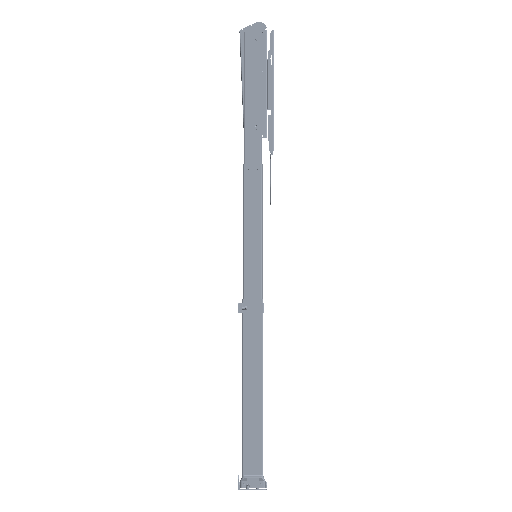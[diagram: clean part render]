
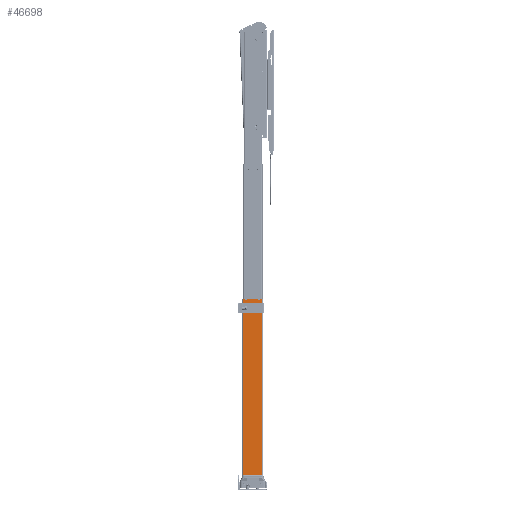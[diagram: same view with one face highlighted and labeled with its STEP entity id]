
A CAD part, left-side view. The second image highlights one B-rep face of the part: STEP entity #46698.
In plain terms, the highlighted planar face has unit normal (-1, 0, 0) as drawn and (0, -1, 0) by its records, which use the part's own axes.
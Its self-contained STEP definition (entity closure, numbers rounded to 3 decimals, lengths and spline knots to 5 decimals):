
#173=ELLIPSE('',#53364,0.02082,0.008);
#178=ELLIPSE('',#53371,0.02082,0.008);
#4111=CIRCLE('',#53550,0.0005);
#4112=CIRCLE('',#53553,0.0005);
#4113=CIRCLE('',#53558,0.0005);
#4114=CIRCLE('',#53561,0.0005);
#13898=ORIENTED_EDGE('',*,*,#21925,.T.);
#13899=ORIENTED_EDGE('',*,*,#21922,.T.);
#13900=ORIENTED_EDGE('',*,*,#21918,.T.);
#13901=ORIENTED_EDGE('',*,*,#22350,.F.);
#13902=ORIENTED_EDGE('',*,*,#22291,.T.);
#13903=ORIENTED_EDGE('',*,*,#22289,.T.);
#13904=ORIENTED_EDGE('',*,*,#22287,.F.);
#13905=ORIENTED_EDGE('',*,*,#22285,.T.);
#13906=ORIENTED_EDGE('',*,*,#22283,.F.);
#13907=ORIENTED_EDGE('',*,*,#22281,.T.);
#13908=ORIENTED_EDGE('',*,*,#22279,.T.);
#13909=ORIENTED_EDGE('',*,*,#22277,.T.);
#13910=ORIENTED_EDGE('',*,*,#22275,.F.);
#13911=ORIENTED_EDGE('',*,*,#22273,.T.);
#13912=ORIENTED_EDGE('',*,*,#22271,.F.);
#13913=ORIENTED_EDGE('',*,*,#22269,.T.);
#13914=ORIENTED_EDGE('',*,*,#22347,.T.);
#13915=ORIENTED_EDGE('',*,*,#22348,.T.);
#21918=EDGE_CURVE('',#26943,#26941,#173,.F.);
#21922=EDGE_CURVE('',#26944,#26943,#31102,.T.);
#21925=EDGE_CURVE('',#26946,#26944,#178,.F.);
#22269=EDGE_CURVE('',#27184,#27183,#31374,.T.);
#22271=EDGE_CURVE('',#27184,#27185,#4111,.T.);
#22273=EDGE_CURVE('',#27186,#27185,#31377,.T.);
#22275=EDGE_CURVE('',#27186,#27187,#4112,.T.);
#22277=EDGE_CURVE('',#27188,#27187,#31380,.T.);
#22279=EDGE_CURVE('',#27189,#27188,#31382,.T.);
#22281=EDGE_CURVE('',#27190,#27189,#31384,.T.);
#22283=EDGE_CURVE('',#27190,#27191,#4113,.T.);
#22285=EDGE_CURVE('',#27192,#27191,#31387,.T.);
#22287=EDGE_CURVE('',#27192,#27193,#4114,.T.);
#22289=EDGE_CURVE('',#27194,#27193,#31390,.T.);
#22291=EDGE_CURVE('',#27195,#27194,#31392,.T.);
#22347=EDGE_CURVE('',#27183,#27226,#31436,.T.);
#22348=EDGE_CURVE('',#27226,#26946,#31437,.T.);
#22350=EDGE_CURVE('',#27195,#26941,#31439,.T.);
#26941=VERTEX_POINT('',#80183);
#26943=VERTEX_POINT('',#80186);
#26944=VERTEX_POINT('',#80191);
#26946=VERTEX_POINT('',#80203);
#27183=VERTEX_POINT('',#80890);
#27184=VERTEX_POINT('',#80892);
#27185=VERTEX_POINT('',#80896);
#27186=VERTEX_POINT('',#80900);
#27187=VERTEX_POINT('',#80904);
#27188=VERTEX_POINT('',#80908);
#27189=VERTEX_POINT('',#80912);
#27190=VERTEX_POINT('',#80916);
#27191=VERTEX_POINT('',#80920);
#27192=VERTEX_POINT('',#80924);
#27193=VERTEX_POINT('',#80928);
#27194=VERTEX_POINT('',#80932);
#27195=VERTEX_POINT('',#80936);
#27226=VERTEX_POINT('',#81046);
#31102=LINE('',#80192,#35331);
#31374=LINE('',#80891,#35603);
#31377=LINE('',#80899,#35606);
#31380=LINE('',#80907,#35609);
#31382=LINE('',#80911,#35611);
#31384=LINE('',#80915,#35613);
#31387=LINE('',#80923,#35616);
#31390=LINE('',#80931,#35619);
#31392=LINE('',#80935,#35621);
#31436=LINE('',#81047,#35665);
#31437=LINE('',#81049,#35666);
#31439=LINE('',#81052,#35668);
#35331=VECTOR('',#63521,1.);
#35603=VECTOR('',#64153,1.);
#35606=VECTOR('',#64162,1.);
#35609=VECTOR('',#64171,1.);
#35611=VECTOR('',#64175,1.);
#35613=VECTOR('',#64179,1.);
#35616=VECTOR('',#64188,1.);
#35619=VECTOR('',#64197,1.);
#35621=VECTOR('',#64201,1.);
#35665=VECTOR('',#64317,1.);
#35666=VECTOR('',#64320,1.);
#35668=VECTOR('',#64324,1.);
#39001=EDGE_LOOP('',(#13898,#13899,#13900,#13901,#13902,#13903,#13904,#13905,
#13906,#13907,#13908,#13909,#13910,#13911,#13912,#13913,#13914,#13915));
#42230=FACE_BOUND('',#39001,.T.);
#44416=PLANE('',#53601);
#46698=ADVANCED_FACE('',(#42230),#44416,.T.);
#53364=AXIS2_PLACEMENT_3D('',#80185,#63511,#63512);
#53371=AXIS2_PLACEMENT_3D('',#80205,#63526,#63527);
#53550=AXIS2_PLACEMENT_3D('',#80895,#64157,#64158);
#53553=AXIS2_PLACEMENT_3D('',#80903,#64166,#64167);
#53558=AXIS2_PLACEMENT_3D('',#80919,#64183,#64184);
#53561=AXIS2_PLACEMENT_3D('',#80927,#64192,#64193);
#53601=AXIS2_PLACEMENT_3D('',#81051,#64322,#64323);
#63511=DIRECTION('',(0.,-1.,0.));
#63512=DIRECTION('',(0.197,0.,-0.98));
#63521=DIRECTION('',(1.,0.,0.));
#63526=DIRECTION('',(0.,-1.,0.));
#63527=DIRECTION('',(0.197,0.,0.98));
#64153=DIRECTION('',(0.,0.,1.));
#64157=DIRECTION('',(0.,-1.,0.));
#64158=DIRECTION('',(1.,0.,0.));
#64162=DIRECTION('',(-1.,0.,0.));
#64166=DIRECTION('',(0.,-1.,0.));
#64167=DIRECTION('',(1.,0.,0.));
#64171=DIRECTION('',(0.,0.,-1.));
#64175=DIRECTION('',(-1.,0.,0.));
#64179=DIRECTION('',(0.,0.,1.));
#64183=DIRECTION('',(0.,-1.,0.));
#64184=DIRECTION('',(1.,0.,0.));
#64188=DIRECTION('',(-1.,0.,0.));
#64192=DIRECTION('',(0.,-1.,0.));
#64193=DIRECTION('',(1.,0.,0.));
#64197=DIRECTION('',(0.,0.,-1.));
#64201=DIRECTION('',(-1.,0.,0.));
#64317=DIRECTION('',(-1.,0.,0.));
#64320=DIRECTION('',(0.,0.,-1.));
#64322=DIRECTION('',(0.,-1.,0.));
#64323=DIRECTION('',(-1.,0.,0.));
#64324=DIRECTION('',(0.,0.,-1.));
#80183=CARTESIAN_POINT('',(0.035,0.0039,0.04606));
#80185=CARTESIAN_POINT('',(0.03471,0.0039,0.0275));
#80186=CARTESIAN_POINT('',(0.03415,0.0039,0.0468));
#80191=CARTESIAN_POINT('',(-0.03415,0.0039,0.0468));
#80192=CARTESIAN_POINT('',(-0.03415,0.0039,0.0468));
#80203=CARTESIAN_POINT('',(-0.035,0.0039,0.04606));
#80205=CARTESIAN_POINT('',(-0.03471,0.0039,0.0275));
#80890=CARTESIAN_POINT('',(-0.02725,0.0039,0.6992));
#80891=CARTESIAN_POINT('',(-0.02725,0.0039,0.37263));
#80892=CARTESIAN_POINT('',(-0.02725,0.0039,0.6981));
#80895=CARTESIAN_POINT('',(-0.02675,0.0039,0.6981));
#80896=CARTESIAN_POINT('',(-0.02675,0.0039,0.6976));
#80899=CARTESIAN_POINT('',(0.,0.0039,0.6976));
#80900=CARTESIAN_POINT('',(-0.02125,0.0039,0.6976));
#80903=CARTESIAN_POINT('',(-0.02125,0.0039,0.6981));
#80904=CARTESIAN_POINT('',(-0.02075,0.0039,0.6981));
#80907=CARTESIAN_POINT('',(-0.02075,0.0039,0.37263));
#80908=CARTESIAN_POINT('',(-0.02075,0.0039,0.6992));
#80911=CARTESIAN_POINT('',(0.,0.0039,0.6992));
#80912=CARTESIAN_POINT('',(0.02075,0.0039,0.6992));
#80915=CARTESIAN_POINT('',(0.02075,0.0039,0.37263));
#80916=CARTESIAN_POINT('',(0.02075,0.0039,0.6981));
#80919=CARTESIAN_POINT('',(0.02125,0.0039,0.6981));
#80920=CARTESIAN_POINT('',(0.02125,0.0039,0.6976));
#80923=CARTESIAN_POINT('',(0.,0.0039,0.6976));
#80924=CARTESIAN_POINT('',(0.02675,0.0039,0.6976));
#80927=CARTESIAN_POINT('',(0.02675,0.0039,0.6981));
#80928=CARTESIAN_POINT('',(0.02725,0.0039,0.6981));
#80931=CARTESIAN_POINT('',(0.02725,0.0039,0.37263));
#80932=CARTESIAN_POINT('',(0.02725,0.0039,0.6992));
#80935=CARTESIAN_POINT('',(0.,0.0039,0.6992));
#80936=CARTESIAN_POINT('',(0.035,0.0039,0.6992));
#81046=CARTESIAN_POINT('',(-0.035,0.0039,0.6992));
#81047=CARTESIAN_POINT('',(-0.02725,0.0039,0.6992));
#81049=CARTESIAN_POINT('',(-0.035,0.0039,0.6992));
#81051=CARTESIAN_POINT('',(0.,0.0039,0.37263));
#81052=CARTESIAN_POINT('',(0.035,0.0039,0.6992));
